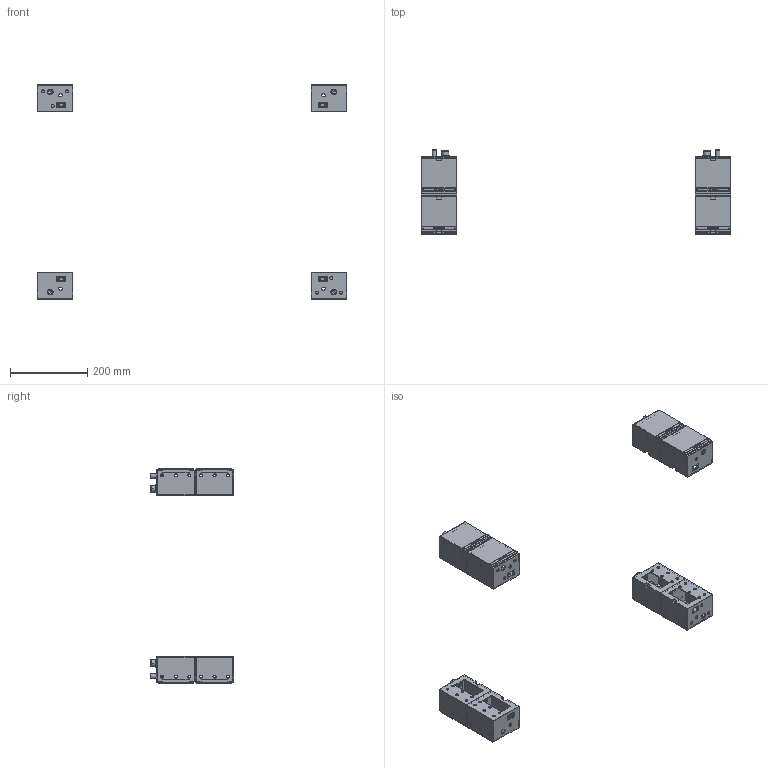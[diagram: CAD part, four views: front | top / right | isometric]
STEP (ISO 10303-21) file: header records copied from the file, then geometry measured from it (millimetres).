
FILE_DESCRIPTION(('Open CASCADE Model'),'2;1');
FILE_NAME('Open CASCADE Shape Model','2025-02-12T15:54:59',('Author'),( 'Open CASCADE'),'Open CASCADE STEP processor 7.8','Open CASCADE 7.8' ,'Unknown');
FILE_SCHEMA(('AUTOMOTIVE_DESIGN { 1 0 10303 214 1 1 1 1 }'));
Length unit declared in the file: millimetre
Products named in the file (7): Compound1; Compound2; Solid1; Solid2; Solid3; Solid4; Solid5
Assembly tree (34 placements, depth 3):
  Compound1
    Compound2  x4
      Solid1
    Solid2  x8
    Solid3  x4
    Solid4  x8
    Solid5  x8
Bounding box: 800 x 216.5 x 556.4 mm (x, y, z)
Volume: 871349.6 mm3; surface area: 722388.4 mm2
Topology: 40 solids, 40 shells, 4000 faces, 11036 edges, 6988 vertices
Faces by surface type: plane 2120, cylinder 928, bspline 648, cone 152, revolution 128, torus 24
Full cylindrical faces by diameter (mm): 7 x72, 8 x48, 9 x16, 10.5 x4, 12 x8, 12.55 x4, 13 x8, 14 x16, 18 x8, 20.5 x8
Entity records: 19051 total; most frequent: CARTESIAN_POINT 5151, ORIENTED_EDGE 3034, DIRECTION 2534, EDGE_CURVE 1517, VERTEX_POINT 987, LINE 960, VECTOR 960, AXIS2_PLACEMENT_3D 779
